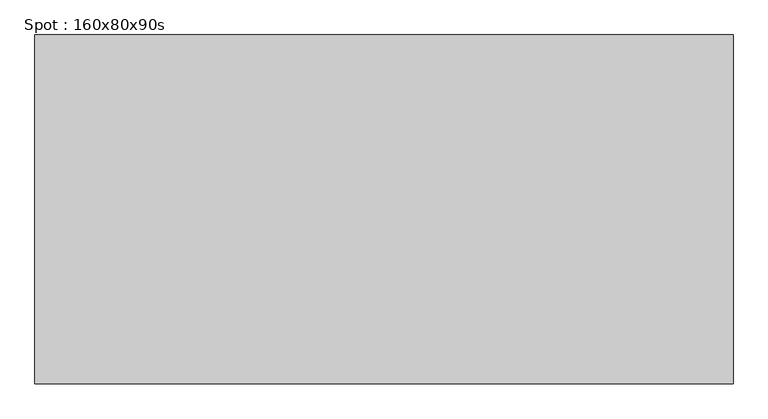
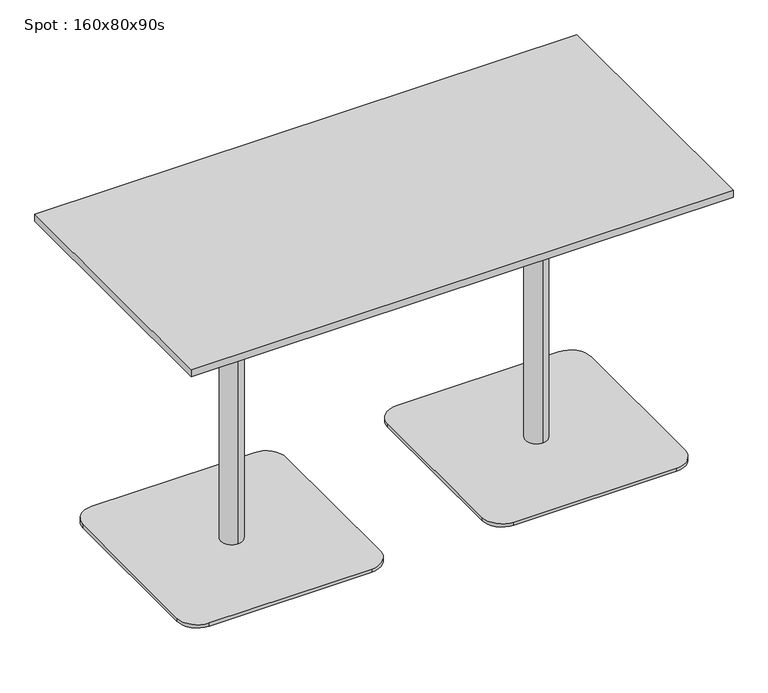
"""IFC4 building model written with IfcOpenShell, lengths in millimetres: furniture geometry, Spot : 160x80x90s."""

from ifc_helpers import new_model, si_unit, point, frame, frame_2d, origin, origin_with_axes, place, context, project, spatial, polyline, circle_curve, trimmed, segment, composite_curve, outline, extrude, source, transform, mapped, element, save
from ifc_brep_helpers import plane_surface, cylinder_surface, revolved_surface, advanced_brep


def spot_160x80x90s_5c555ce4(model_context):
    return source(origin(), model_context, "Body", "SolidModel", [
        extrude(outline(polyline([(800.0, 400.0), (800.0, -400.0), (-800.0, -400.0), (-800.0, 400.0), (800.0, 400.0)])), frame((0.0, 0.0, 878.0), z_axis=(0.0, 0.0, 1.0), x_axis=(1.0, 0.0, 0.0)), (0.0, 0.0, 1.0), 22.0),
        extrude(outline(composite_curve([segment(trimmed(circle_curve(frame_2d((-210.0, 240.0)), 60.0), [point((-210.0, 300.0))], [point((-150.0, 240.0))], False, "CARTESIAN"), True, "CONTINUOUS"), segment(polyline([(-150.0, 240.0), (-150.0, -240.0)]), True, "CONTINUOUS"), segment(trimmed(circle_curve(frame_2d((-210.0, -240.0)), 60.0), [point((-150.0, -240.0))], [point((-210.0, -300.0))], False, "CARTESIAN"), True, "CONTINUOUS"), segment(polyline([(-210.0, -300.0), (-690.0, -300.0)]), True, "CONTINUOUS"), segment(trimmed(circle_curve(frame_2d((-690.0, -240.0)), 60.0), [point((-690.0, -300.0))], [point((-750.0, -240.0))], False, "CARTESIAN"), True, "CONTINUOUS"), segment(polyline([(-750.0, -240.0), (-750.0, 240.0)]), True, "CONTINUOUS"), segment(trimmed(circle_curve(frame_2d((-690.0, 240.0)), 60.0), [point((-750.0, 240.0))], [point((-690.0, 300.0))], False, "CARTESIAN"), True, "CONTINUOUS"), segment(polyline([(-690.0, 300.0), (-210.0, 300.0)]), True, "CONTINUOUS")], self_intersect=False)), origin_with_axes(), (0.0, 0.0, 1.0), 10.0),
        advanced_brep(
        [(-450.0, 32.0, 10.0), (-450.0, -32.0, 10.0), (-450.0, -32.0, 847.406916), (-450.0, 32.0, 847.406916), (-450.0, 0.0, 10.0), (-450.0, 150.0, 878.0), (-450.0, -150.0, 878.0), (-450.0, 0.0, 878.0), (-450.0, 150.0, 866.7213673), (-450.0, -150.0, 866.7213673)],
        [
            (0, 1, circle_curve(frame((-450.0, 0.0, 10.0), z_axis=(0.0, 0.0, 1.0), x_axis=(0.0, -1.0, 0.0)), 32.0)),
            (1, 2),
            (2, 3, circle_curve(frame((-450.0, 0.0, 847.406916), z_axis=(0.0, 0.0, -1.0), x_axis=(0.0, -1.0, 0.0)), 32.0)),
            (3, 0),
            (1, 0, circle_curve(frame((-450.0, 0.0, 10.0), z_axis=(0.0, 0.0, 1.0), x_axis=(0.0, -1.0, 0.0)), 32.0)),
            (3, 2, circle_curve(frame((-450.0, 0.0, 847.406916), z_axis=(0.0, 0.0, -1.0), x_axis=(0.0, -1.0, 0.0)), 32.0)),
            (4, 1),
            (0, 4),
            (5, 6, circle_curve(frame((-450.0, 0.0, 878.0), z_axis=(0.0, 0.0, 1.0), x_axis=(0.0, -1.0, 0.0)), 150.0)),
            (6, 7),
            (7, 5),
            (6, 5, circle_curve(frame((-450.0, 0.0, 878.0), z_axis=(0.0, 0.0, 1.0), x_axis=(0.0, -1.0, 0.0)), 150.0)),
            (8, 9, circle_curve(frame((-450.0, 0.0, 866.7213673), z_axis=(0.0, 0.0, 1.0), x_axis=(0.0, -1.0, 0.0)), 150.0)),
            (9, 6),
            (5, 8),
            (9, 8, circle_curve(frame((-450.0, 0.0, 866.7213673), z_axis=(0.0, 0.0, 1.0), x_axis=(0.0, -1.0, 0.0)), 150.0)),
            (2, 9),
            (8, 3),
        ],
        [
            cylinder_surface(frame((-450.0, 0.0, 1240.0), z_axis=(0.0, 0.0, -1.0), x_axis=(0.0, -1.0, 0.0)), 32.0),
            plane_surface(frame((-450.0, 0.0, 10.0), z_axis=(0.0, 0.0, -1.0), x_axis=(0.0, -1.0, 0.0))),
            plane_surface(frame((-450.0, 0.0, 878.0), z_axis=(0.0, 0.0, 1.0), x_axis=(0.0, -1.0, 0.0))),
            cylinder_surface(frame((-450.0, 0.0, 1240.0), z_axis=(0.0, 0.0, -1.0), x_axis=(0.0, -1.0, 0.0)), 150.0),
            revolved_surface(polyline([(-450.0, -150.0, 866.7213673), (-450.0, -32.0, 847.406916)]), (-450.0, 0.0, 1240.0), (0.0, 0.0, -1.0)),
        ],
        [
            (0, [[1, 2, 3, 4]]),
            (0, [[5, -4, 6, -2]]),
            (1, [[7, -1, 8]]),
            (1, [[-8, -5, -7]]),
            (2, [[9, 10, 11]]),
            (2, [[12, -11, -10]]),
            (3, [[13, 14, -9, 15]]),
            (3, [[16, -15, -12, -14]]),
            (4, [[-3, 17, -13, 18]]),
            (4, [[-6, -18, -16, -17]]),
        ],
    ),
        extrude(outline(polyline([(-450.0, 0.0), (-470.0, 0.0), (-470.0, 20.0), (-450.0, 20.0), (-450.0, 0.0)])), origin_with_axes(), (0.0, 0.0, 1.0), 10.0),
        extrude(outline(composite_curve([segment(trimmed(circle_curve(frame_2d((690.0, 240.0)), 60.0), [point((690.0, 300.0))], [point((750.0, 240.0))], False, "CARTESIAN"), True, "CONTINUOUS"), segment(polyline([(750.0, 240.0), (750.0, -240.0)]), True, "CONTINUOUS"), segment(trimmed(circle_curve(frame_2d((690.0, -240.0)), 60.0), [point((750.0, -240.0))], [point((690.0, -300.0))], False, "CARTESIAN"), True, "CONTINUOUS"), segment(polyline([(690.0, -300.0), (210.0, -300.0)]), True, "CONTINUOUS"), segment(trimmed(circle_curve(frame_2d((210.0, -240.0)), 60.0), [point((210.0, -300.0))], [point((150.0, -240.0))], False, "CARTESIAN"), True, "CONTINUOUS"), segment(polyline([(150.0, -240.0), (150.0, 240.0)]), True, "CONTINUOUS"), segment(trimmed(circle_curve(frame_2d((210.0, 240.0)), 60.0), [point((150.0, 240.0))], [point((210.0, 300.0))], False, "CARTESIAN"), True, "CONTINUOUS"), segment(polyline([(210.0, 300.0), (690.0, 300.0)]), True, "CONTINUOUS")], self_intersect=False)), origin_with_axes(), (0.0, 0.0, 1.0), 10.0),
        advanced_brep(
        [(450.0, 32.0, 10.0), (450.0, -32.0, 10.0), (450.0, -32.0, 847.406916), (450.0, 32.0, 847.406916), (450.0, 0.0, 10.0), (450.0, 150.0, 878.0), (450.0, -150.0, 878.0), (450.0, 0.0, 878.0), (450.0, 150.0, 866.7213673), (450.0, -150.0, 866.7213673)],
        [
            (0, 1, circle_curve(frame((450.0, 0.0, 10.0), z_axis=(0.0, 0.0, 1.0), x_axis=(0.0, -1.0, 0.0)), 32.0)),
            (1, 2),
            (2, 3, circle_curve(frame((450.0, 0.0, 847.406916), z_axis=(0.0, 0.0, -1.0), x_axis=(0.0, -1.0, 0.0)), 32.0)),
            (3, 0),
            (1, 0, circle_curve(frame((450.0, 0.0, 10.0), z_axis=(0.0, 0.0, 1.0), x_axis=(0.0, -1.0, 0.0)), 32.0)),
            (3, 2, circle_curve(frame((450.0, 0.0, 847.406916), z_axis=(0.0, 0.0, -1.0), x_axis=(0.0, -1.0, 0.0)), 32.0)),
            (4, 1),
            (0, 4),
            (5, 6, circle_curve(frame((450.0, 0.0, 878.0), z_axis=(0.0, 0.0, 1.0), x_axis=(0.0, -1.0, 0.0)), 150.0)),
            (6, 7),
            (7, 5),
            (6, 5, circle_curve(frame((450.0, 0.0, 878.0), z_axis=(0.0, 0.0, 1.0), x_axis=(0.0, -1.0, 0.0)), 150.0)),
            (8, 9, circle_curve(frame((450.0, 0.0, 866.7213673), z_axis=(0.0, 0.0, 1.0), x_axis=(0.0, -1.0, 0.0)), 150.0)),
            (9, 6),
            (5, 8),
            (9, 8, circle_curve(frame((450.0, 0.0, 866.7213673), z_axis=(0.0, 0.0, 1.0), x_axis=(0.0, -1.0, 0.0)), 150.0)),
            (2, 9),
            (8, 3),
        ],
        [
            cylinder_surface(frame((450.0, 0.0, 1240.0), z_axis=(0.0, 0.0, -1.0), x_axis=(0.0, -1.0, 0.0)), 32.0),
            plane_surface(frame((450.0, 0.0, 10.0), z_axis=(0.0, 0.0, -1.0), x_axis=(0.0, -1.0, 0.0))),
            plane_surface(frame((450.0, 0.0, 878.0), z_axis=(0.0, 0.0, 1.0), x_axis=(0.0, -1.0, 0.0))),
            cylinder_surface(frame((450.0, 0.0, 1240.0), z_axis=(0.0, 0.0, -1.0), x_axis=(0.0, -1.0, 0.0)), 150.0),
            revolved_surface(polyline([(450.0, -150.0, 866.7213673), (450.0, -32.0, 847.406916)]), (450.0, 0.0, 1240.0), (0.0, 0.0, -1.0)),
        ],
        [
            (0, [[1, 2, 3, 4]]),
            (0, [[5, -4, 6, -2]]),
            (1, [[7, -1, 8]]),
            (1, [[-8, -5, -7]]),
            (2, [[9, 10, 11]]),
            (2, [[12, -11, -10]]),
            (3, [[13, 14, -9, 15]]),
            (3, [[16, -15, -12, -14]]),
            (4, [[-3, 17, -13, 18]]),
            (4, [[-6, -18, -16, -17]]),
        ],
    ),
        extrude(outline(polyline([(450.0, 0.0), (430.0, 0.0), (430.0, 20.0), (450.0, 20.0), (450.0, 0.0)])), origin_with_axes(), (0.0, 0.0, 1.0), 10.0),
    ])


if __name__ == "__main__":
    model = new_model("IFC4")
    model_context = context("Model", 3, world=origin())
    ifc_project = project(units=[si_unit("LENGTHUNIT", "METRE", prefix="MILLI")], contexts=[model_context])
    site = spatial("IfcSite", under=ifc_project)
    building = spatial("IfcBuilding", under=site)
    placement = place(None, origin())
    spot_160x80x90s_shape = spot_160x80x90s_5c555ce4(model_context)
    element("IfcFurniture", 1, ObjectType="Spot : 160x80x90s", at=placement, inside=building, context=model_context, shape_type="MappedRepresentation", body=[
        mapped(spot_160x80x90s_shape, transform((0.0, 0.0, 0.0), x_axis=(1.0, 0.0, 0.0), y_axis=(0.0, 1.0, 0.0), z_axis=(0.0, 0.0, 1.0))),
    ])
    save(model, "model.ifc")
